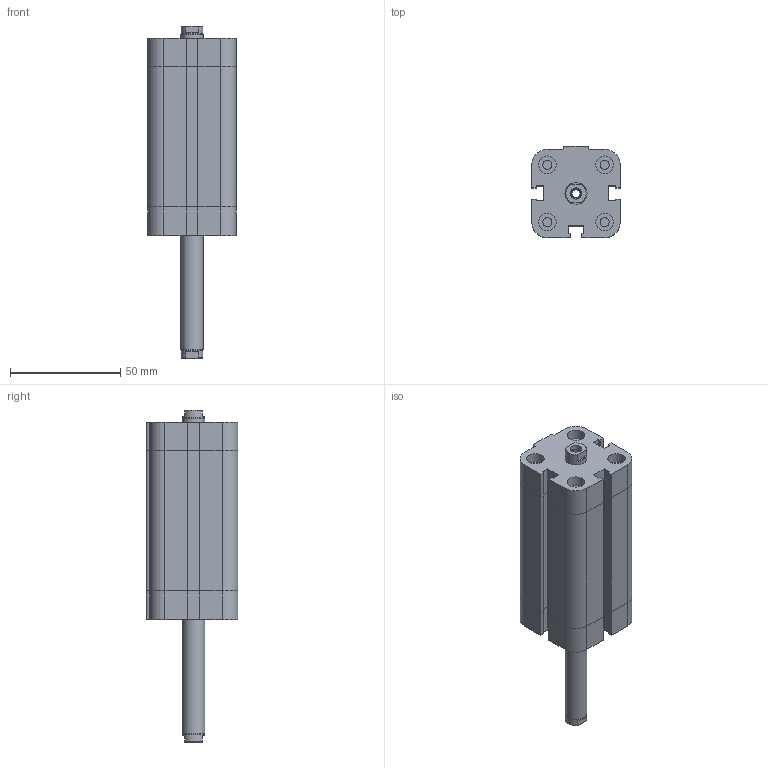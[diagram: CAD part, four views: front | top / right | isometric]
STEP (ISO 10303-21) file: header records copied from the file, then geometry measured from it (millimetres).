
FILE_DESCRIPTION((''),'2;1');
FILE_NAME('I:\Area Tecnica\Disegni\VARIE-3D\Componenti\EUROPE\15##_###_####_06_#\1581_25_0050_06_1.iam.stp','2009-04-20T15:09:18',(''),(''),'Autodesk Inventor 2009','Autodesk Inventor 2009','');
FILE_SCHEMA(('AUTOMOTIVE_DESIGN { 1 0 10303 214 1 1 1 1 }'));
Length unit declared in the file: millimetre
Products named in the file (3): 1581_25_0050_06_1; 1581_25_0050_03_1_C; 1561_25_0050_06_1_S
Assembly tree (2 placements, depth 2):
  1581_25_0050_06_1
    1581_25_0050_03_1_C
    1561_25_0050_06_1_S
Bounding box: 40 x 41.5 x 150.5 mm (x, y, z)
Volume: 131369.2 mm3; surface area: 32121.8 mm2
Topology: 2 solids, 2 shells, 175 faces, 382 edges, 233 vertices
Faces by surface type: plane 114, bspline 30, cylinder 25, cone 6
Full cylindrical faces by diameter (mm): 4.134 x5, 5.2 x1, 8 x4, 9.8 x2, 10 x1
Entity records: 4805 total; most frequent: CARTESIAN_POINT 1042, DIRECTION 712, ORIENTED_EDGE 680, EDGE_CURVE 340, VECTOR 252, LINE 252, AXIS2_PLACEMENT_3D 230, EDGE_LOOP 230
